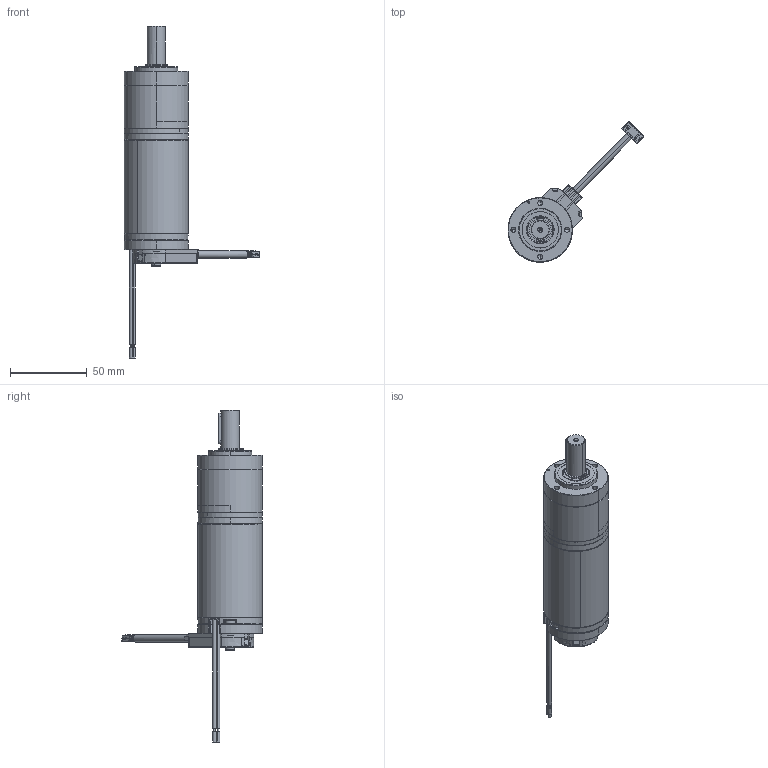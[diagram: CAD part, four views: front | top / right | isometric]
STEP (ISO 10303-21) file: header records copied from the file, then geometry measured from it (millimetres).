
FILE_DESCRIPTION (( 'STEP AP214' ), '1' );
FILE_NAME ('BRx42-25-PGx42 (1 Stage) - Incr Encoder.STEP', '2025-05-12T11:23:52', ( '' ), ( '' ), 'SwSTEP 2.0', 'SolidWorks 2023', '' );
FILE_SCHEMA (( 'AUTOMOTIVE_DESIGN' ));
Length unit declared in the file: millimetre
Products named in the file (1): BRx42-25-PGx42 (1 Stage) - Incr Encoder
Bounding box: 88.58 x 91.67 x 216.35 mm (x, y, z)
Volume: 104756.5 mm3; surface area: 67291.3 mm2
Topology: 34 solids, 34 shells, 3659 faces, 9404 edges, 5992 vertices
Faces by surface type: plane 1908, cylinder 727, cone 525, torus 237, bspline 234, sphere 28
Entity records: 164607 total; most frequent: CARTESIAN_POINT 35948, ORIENTED_EDGE 18760, DIRECTION 17681, EDGE_CURVE 9380, AXIS2_PLACEMENT_3D 6244, VERTEX_POINT 5992, LINE 5193, VECTOR 5193
